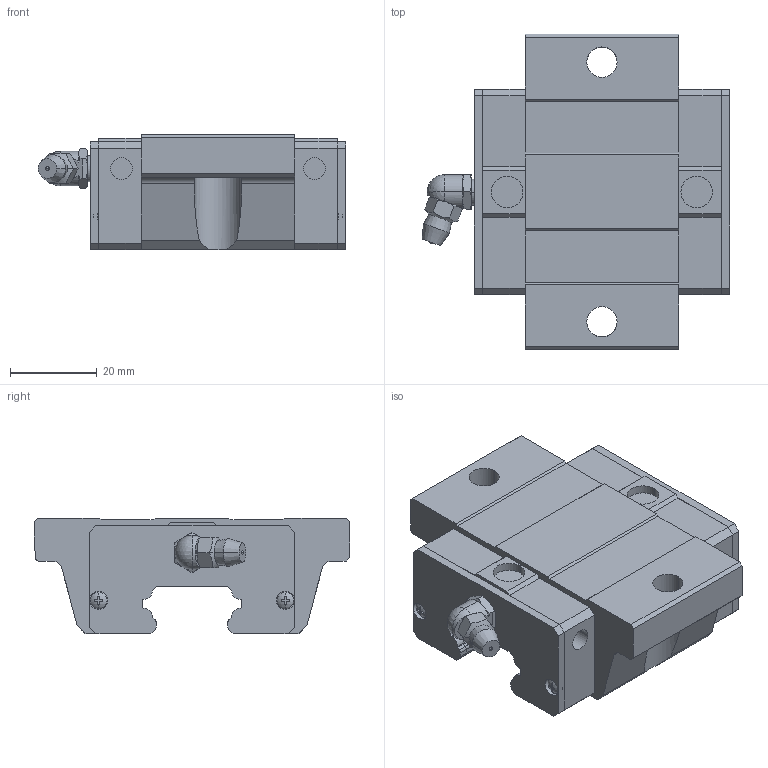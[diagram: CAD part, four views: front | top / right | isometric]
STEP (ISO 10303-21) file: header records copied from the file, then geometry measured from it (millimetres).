
FILE_DESCRIPTION(('starvars output'),'2;1');
FILE_NAME('cv20190626224120000042560.stp','22:41:20 2019/06/26',( 'Thomas Industrial Network Germany GmbH'),( 'Thomas Industrial Network Germany GmbH'),'unknown preprocess','ACIS' ,'unknown authorization');
FILE_SCHEMA(('CONFIG_CONTROL_DESIGN {UNKNOWN IMPLEMENTATION LEVEL}'));
Length unit declared in the file: millimetre
Products named in the file (10): PRODUCT_ID_1; PRODUCT_ID_2; PRODUCT_ID_3; PRODUCT_ID_4; PRODUCT_ID_5; PRODUCT_ID_6; PRODUCT_ID_7; PRODUCT_ID_8; PRODUCT_ID_9; PRODUCT_ID_10
Bounding box: 71.1 x 73 x 26.8 mm (x, y, z)
Volume: 73076 mm3; surface area: 24209.3 mm2
Topology: 10 solids, 10 shells, 409 faces, 1090 edges, 710 vertices
Faces by surface type: plane 227, cylinder 130, cone 40, sphere 12
Entity records: 12554 total; most frequent: ORIENTED_EDGE 2172, CARTESIAN_POINT 2070, DIRECTION 1853, EDGE_CURVE 1086, VERTEX_POINT 710, AXIS2_PLACEMENT_3D 619, VECTOR 615, LINE 615
